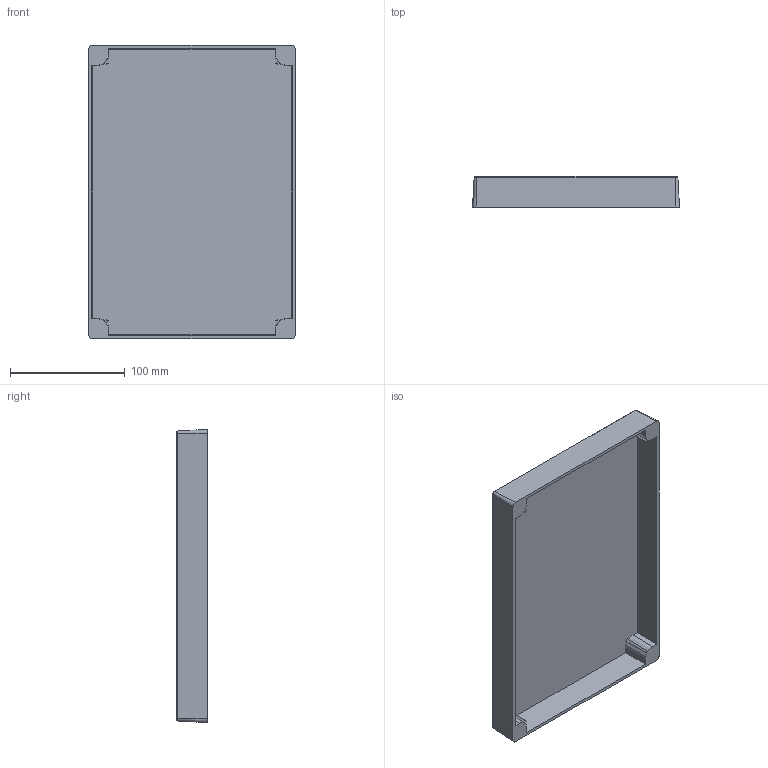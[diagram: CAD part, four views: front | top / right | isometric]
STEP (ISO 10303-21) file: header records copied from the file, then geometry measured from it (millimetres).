
FILE_DESCRIPTION (( 'STEP AP203' ), '1' );
FILE_NAME ('FIBOX_MNX20025C.STEP', '2005-06-30T06:43:37', ( ' ' ), ( ' ' ), 'SwSTEP 2.0', 'SolidWorks 2005143', '' );
FILE_SCHEMA (( 'CONFIG_CONTROL_DESIGN' ));
Length unit declared in the file: millimetre
Products named in the file (1): FIBOX_MNX20025C
Bounding box: 180 x 26.6 x 255 mm (x, y, z)
Volume: 166620.2 mm3; surface area: 134896.9 mm2
Topology: 1 solids, 1 shells, 72 faces, 184 edges, 120 vertices
Faces by surface type: plane 40, cone 20, cylinder 12
Entity records: 2277 total; most frequent: CARTESIAN_POINT 425, DIRECTION 374, ORIENTED_EDGE 368, EDGE_CURVE 184, AXIS2_PLACEMENT_3D 133, VERTEX_POINT 120, VECTOR 108, LINE 108
